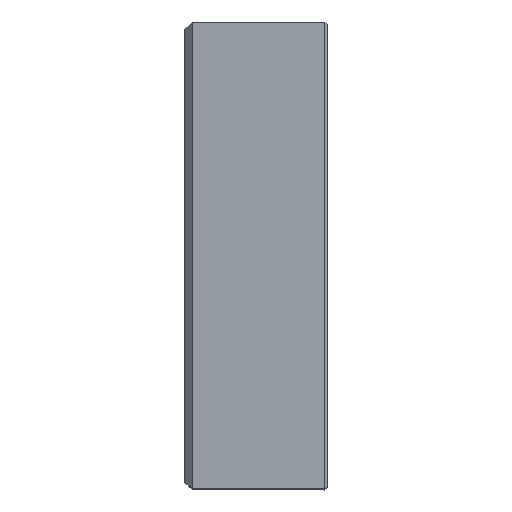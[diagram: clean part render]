
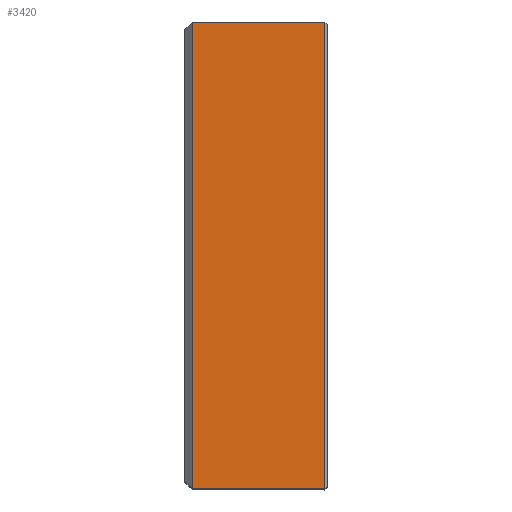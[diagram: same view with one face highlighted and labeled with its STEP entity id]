
A CAD part, top view. The second image highlights one B-rep face of the part: STEP entity #3420.
In plain terms, the highlighted planar face has unit normal (0, 0, 1).
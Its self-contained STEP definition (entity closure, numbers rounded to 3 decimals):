
#295=VERTEX_POINT(' ',#296);
#296=CARTESIAN_POINT('',(54.,-90.,0.));
#305=VERTEX_POINT(' ',#306);
#306=CARTESIAN_POINT('',(54.,90.,0.));
#339=VERTEX_POINT(' ',#340);
#340=CARTESIAN_POINT('',(3.,-90.,0.));
#347=VERTEX_POINT(' ',#348);
#348=CARTESIAN_POINT('',(3.,90.,0.));
#1593=LINE('',#1594,#1595);
#1594=CARTESIAN_POINT('',(54.,95.657,0.));
#1595=VECTOR('',#1596,1.);
#1596=DIRECTION('',(0.,-1.,0.));
#1597=EDGE_CURVE(' ',#305,#295,#1593,.T.);
#1757=LINE('',#1758,#1759);
#1758=CARTESIAN_POINT('',(55.12,-90.,0.));
#1759=VECTOR('',#1760,1.);
#1760=DIRECTION('',(-1.,0.,0.));
#1761=EDGE_CURVE(' ',#295,#339,#1757,.T.);
#1796=LINE('',#1797,#1798);
#1797=CARTESIAN_POINT('',(3.,-103.971,0.));
#1798=VECTOR('',#1799,1.);
#1799=DIRECTION('',(0.,1.,0.));
#1800=EDGE_CURVE(' ',#339,#347,#1796,.T.);
#1801=LINE('',#1802,#1803);
#1802=CARTESIAN_POINT('',(55.12,90.,0.));
#1803=VECTOR('',#1804,1.);
#1804=DIRECTION('',(-1.,0.,0.));
#1805=EDGE_CURVE(' ',#305,#347,#1801,.T.);
#3409=ORIENTED_EDGE('',*,*,#1800,.F.);
#3410=ORIENTED_EDGE('',*,*,#1761,.F.);
#3411=ORIENTED_EDGE('',*,*,#1597,.F.);
#3412=ORIENTED_EDGE('',*,*,#1805,.T.);
#3413=EDGE_LOOP('',(#3409,#3410,#3411,#3412));
#3414=FACE_OUTER_BOUND('',#3413,.T.);
#3415=PLANE('',#3416);
#3416=AXIS2_PLACEMENT_3D('',#3417,#3418,#3419);
#3417=CARTESIAN_POINT('',(0.,-90.,0.));
#3418=DIRECTION('',(0.,0.,1.));
#3419=DIRECTION('',(0.,1.,0.));
#3420=ADVANCED_FACE('',(#3414),#3415,.T.);
